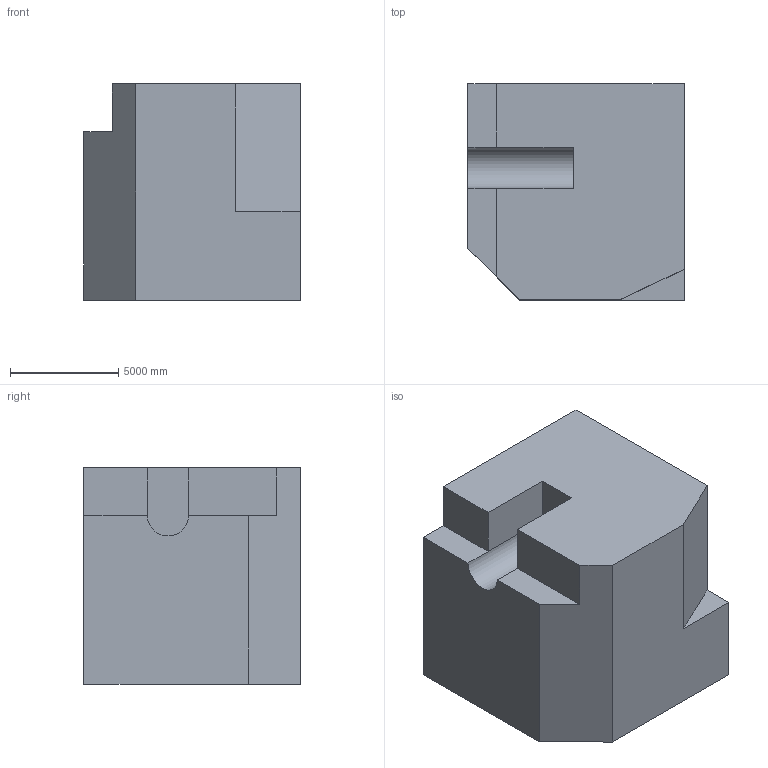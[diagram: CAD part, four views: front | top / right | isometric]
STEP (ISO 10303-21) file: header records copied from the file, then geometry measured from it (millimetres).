
FILE_DESCRIPTION (( 'STEP AP203' ), '1' );
FILE_NAME ('1491.STEP', '2022-08-18T14:48:08', ( 'user' ), ( '' ), 'SwSTEP 2.0', 'SolidWorks 2021', '' );
FILE_SCHEMA (( 'CONFIG_CONTROL_DESIGN' ));
Length unit declared in the file: centimetre
Products named in the file (1): 1491
Bounding box: 10000 x 10000 x 10000 mm (x, y, z)
Volume: 888779397642 mm3; surface area: 608878169.1 mm2
Topology: 1 solids, 1 shells, 21 faces, 57 edges, 38 vertices
Faces by surface type: plane 20, cylinder 1
Entity records: 732 total; most frequent: CARTESIAN_POINT 117, ORIENTED_EDGE 114, DIRECTION 105, EDGE_CURVE 57, VECTOR 53, LINE 53, VERTEX_POINT 38, AXIS2_PLACEMENT_3D 26
